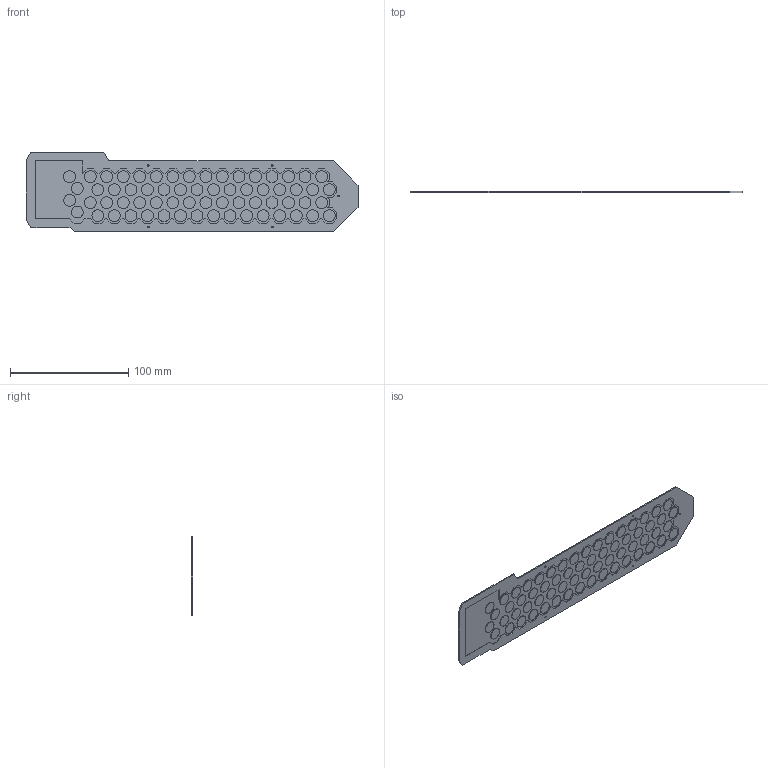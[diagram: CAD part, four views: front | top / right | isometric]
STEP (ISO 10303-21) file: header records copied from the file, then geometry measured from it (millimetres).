
FILE_DESCRIPTION(/* description */ ('STEP AP242','CAx-IF Rec.Pracs.---Representation and Presentation of Product Manufacturing Information (PMI)---4.0---2014-10-13','CAx-IF Rec.Pracs.---3D Tessellated Geometry---0.4---2014-09-14','2;1'),/* implementation_level */ '2;1');
FILE_NAME(/* name */ '65b7cbc3d6a5f9253210c515',/* time_stamp */ '2024-01-29T16:01:09Z',/* author */ (''),/* organization */ (''),/* preprocessor_version */ 'ST-DEVELOPER v19.4',/* originating_system */ ' ',/* authorisation */ ' ');
FILE_SCHEMA (('AP242_MANAGED_MODEL_BASED_3D_ENGINEERING_MIM_LF { 1 0 10303 442 1 1 4 }'));
Length unit declared in the file: metre
Products named in the file (1): Part 30
Bounding box: 281.25 x 1 x 67.05 mm (x, y, z)
Volume: 13685.4 mm3; surface area: 35583.2 mm2
Topology: 1 solids, 1 shells, 288 faces, 663 edges, 442 vertices
Faces by surface type: plane 219, cylinder 69
Full cylindrical faces by diameter (mm): 1.3 x5, 10 x63, 10.1 x1
Entity records: 7805 total; most frequent: CARTESIAN_POINT 1334, DIRECTION 1307, ORIENTED_EDGE 1188, EDGE_CURVE 594, LINE 453, VECTOR 453, VERTEX_POINT 442, EDGE_LOOP 432
